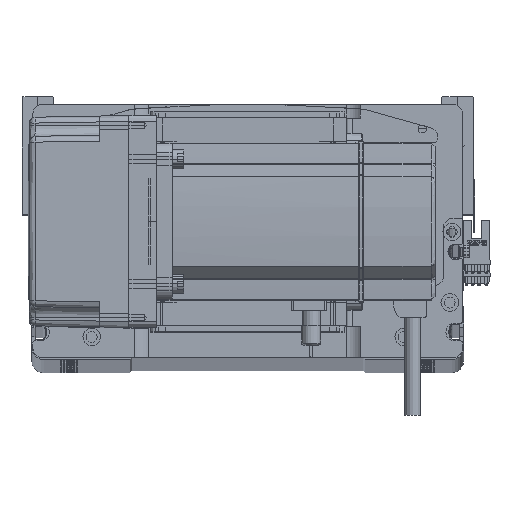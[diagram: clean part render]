
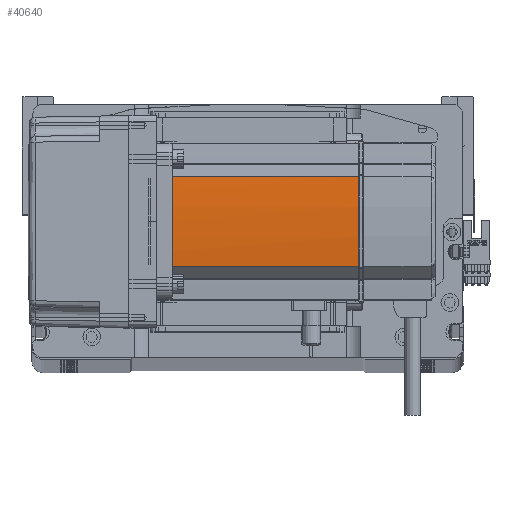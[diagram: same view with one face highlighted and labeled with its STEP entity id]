
A CAD part, top view. The second image highlights one B-rep face of the part: STEP entity #40640.
In plain terms, the highlighted cylindrical face has radius 270 mm (diameter 540 mm), a partial arc.
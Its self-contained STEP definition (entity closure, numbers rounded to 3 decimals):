
#1892 = DIRECTION ( 'NONE',  ( 0., 0., -1. ) ) ;
#2006 = AXIS2_PLACEMENT_3D ( 'NONE', #24521, #57133, #29291 ) ;
#2119 = EDGE_CURVE ( 'NONE', #10035, #13429, #54412, .T. ) ;
#2692 = CARTESIAN_POINT ( 'NONE',  ( 39.042, 22.724, 134. ) ) ;
#6278 = CARTESIAN_POINT ( 'NONE',  ( 40., -0.042, 134. ) ) ;
#6484 = CARTESIAN_POINT ( 'NONE',  ( 40., 0.127, 134. ) ) ;
#9347 = CARTESIAN_POINT ( 'NONE',  ( 39.042, -22.724, 39. ) ) ;
#10035 = VERTEX_POINT ( 'NONE', #13899 ) ;
#10183 = VECTOR ( 'NONE', #23205, 1000. ) ;
#11899 = DIRECTION ( 'NONE',  ( -1., 0., 0. ) ) ;
#12184 = CARTESIAN_POINT ( 'NONE',  ( 39.042, -22.724, 134. ) ) ;
#12282 = ORIENTED_EDGE ( 'NONE', *, *, #43987, .T. ) ;
#13429 = VERTEX_POINT ( 'NONE', #12184 ) ;
#13899 = CARTESIAN_POINT ( 'NONE',  ( 40., -0.127, 134. ) ) ;
#15539 = EDGE_LOOP ( 'NONE', ( #50293, #33625, #12282, #25499, #37210, #57530 ) ) ;
#18335 = CARTESIAN_POINT ( 'NONE',  ( -230., 0., 134. ) ) ;
#18766 = CARTESIAN_POINT ( 'NONE',  ( 39.042, -22.724, 58. ) ) ;
#20631 = DIRECTION ( 'NONE',  ( 0., 0., -1. ) ) ;
#20979 = AXIS2_PLACEMENT_3D ( 'NONE', #44575, #20631, #11899 ) ;
#22380 = EDGE_CURVE ( 'NONE', #13429, #39299, #40111, .T. ) ;
#23113 = B_SPLINE_CURVE_WITH_KNOTS ( 'NONE', 3,
 ( #44320, #6278, #34296, #6484 ),
 .UNSPECIFIED., .F., .F.,
 ( 4, 4 ),
 ( 0., 1. ),
 .UNSPECIFIED. ) ;
#23205 = DIRECTION ( 'NONE',  ( 0., 0., 1. ) ) ;
#23672 = VERTEX_POINT ( 'NONE', #27408 ) ;
#23941 = DIRECTION ( 'NONE',  ( 0., 0., -1. ) ) ;
#24521 = CARTESIAN_POINT ( 'NONE',  ( -230., 0., 134. ) ) ;
#25499 = ORIENTED_EDGE ( 'NONE', *, *, #45494, .T. ) ;
#27404 = VECTOR ( 'NONE', #23941, 1000. ) ;
#27408 = CARTESIAN_POINT ( 'NONE',  ( 39.042, 22.724, 39. ) ) ;
#27832 = VERTEX_POINT ( 'NONE', #32669 ) ;
#29291 = DIRECTION ( 'NONE',  ( -1., 0., 0. ) ) ;
#29952 = AXIS2_PLACEMENT_3D ( 'NONE', #18335, #51593, #57548 ) ;
#32189 = CYLINDRICAL_SURFACE ( 'NONE', #60368, 270. ) ;
#32669 = CARTESIAN_POINT ( 'NONE',  ( 40., 0.127, 134. ) ) ;
#33625 = ORIENTED_EDGE ( 'NONE', *, *, #57650, .F. ) ;
#34296 = CARTESIAN_POINT ( 'NONE',  ( 40., 0.042, 134. ) ) ;
#36950 = EDGE_CURVE ( 'NONE', #10035, #27832, #23113, .T. ) ;
#37210 = ORIENTED_EDGE ( 'NONE', *, *, #36950, .F. ) ;
#37457 = FACE_OUTER_BOUND ( 'NONE', #15539, .T. ) ;
#39299 = VERTEX_POINT ( 'NONE', #9347 ) ;
#40111 = LINE ( 'NONE', #18766, #27404 ) ;
#40640 = ADVANCED_FACE ( 'NONE', ( #37457 ), #32189, .T. ) ;
#43987 = EDGE_CURVE ( 'NONE', #23672, #58066, #61469, .T. ) ;
#44320 = CARTESIAN_POINT ( 'NONE',  ( 40., -0.127, 134. ) ) ;
#44575 = CARTESIAN_POINT ( 'NONE',  ( -230., 0., 39. ) ) ;
#45494 = EDGE_CURVE ( 'NONE', #58066, #27832, #49797, .T. ) ;
#49797 = CIRCLE ( 'NONE', #2006, 270. ) ;
#50293 = ORIENTED_EDGE ( 'NONE', *, *, #22380, .T. ) ;
#51593 = DIRECTION ( 'NONE',  ( 0., 0., -1. ) ) ;
#53983 = CIRCLE ( 'NONE', #20979, 270. ) ;
#54247 = DIRECTION ( 'NONE',  ( -1., 0., 0. ) ) ;
#54412 = CIRCLE ( 'NONE', #29952, 270. ) ;
#57133 = DIRECTION ( 'NONE',  ( 0., 0., -1. ) ) ;
#57530 = ORIENTED_EDGE ( 'NONE', *, *, #2119, .T. ) ;
#57548 = DIRECTION ( 'NONE',  ( -1., 0., 0. ) ) ;
#57650 = EDGE_CURVE ( 'NONE', #23672, #39299, #53983, .T. ) ;
#58066 = VERTEX_POINT ( 'NONE', #2692 ) ;
#59388 = CARTESIAN_POINT ( 'NONE',  ( -230., 0., 58. ) ) ;
#60368 = AXIS2_PLACEMENT_3D ( 'NONE', #59388, #1892, #54247 ) ;
#61190 = CARTESIAN_POINT ( 'NONE',  ( 39.042, 22.724, 58. ) ) ;
#61469 = LINE ( 'NONE', #61190, #10183 ) ;
